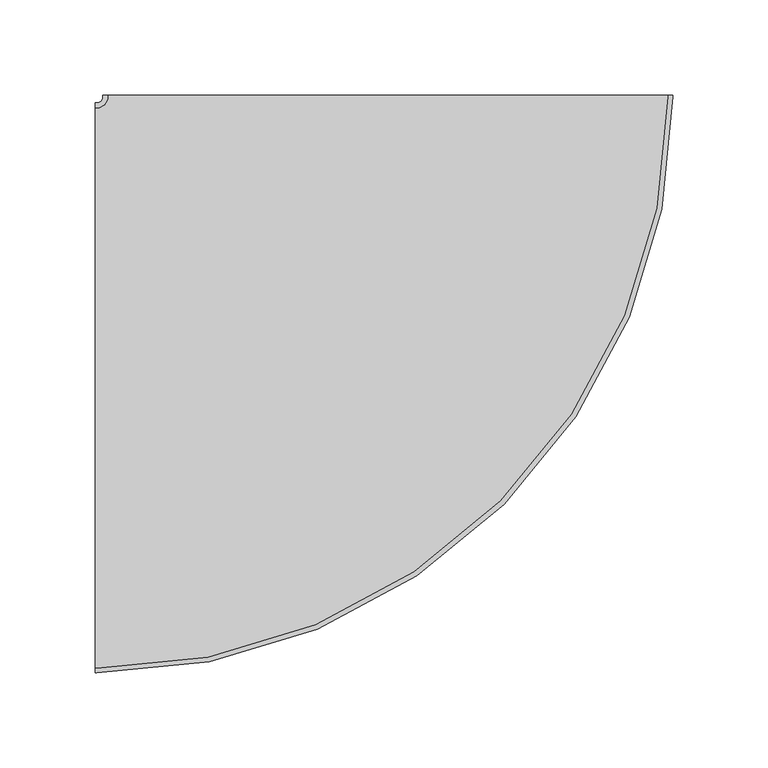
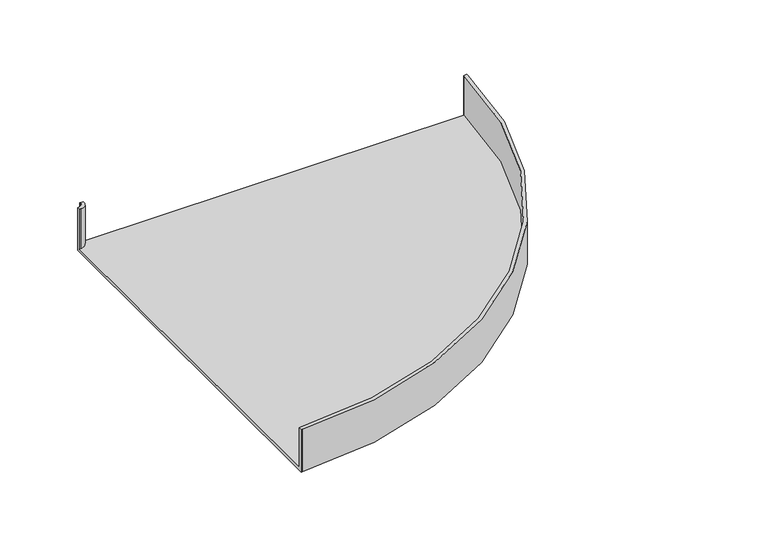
"""IFC4 building model written with IfcOpenShell, lengths in millimetres: cable carrier fitting geometry, BAKS_Mesh horizontal bend : KKSZ_H35."""

from ifc_helpers import new_model, si_unit, frame, origin, place, context, project, spatial, polyline, circle_curve, source, transform, mapped, element, save
from ifc_brep_helpers import plane_surface, cylinder_surface, revolved_surface, advanced_brep


def cable_carrier_fitting_b6827417(model_context):
    return source(origin(), model_context, "Body", "AdvancedBrep", [
        advanced_brep(
        [(-154.175, -150.0, -17.5), (-154.175, -150.0, 17.5), (-154.175, -147.46, 17.5), (-154.175, -147.46, -14.96), (-154.175, 147.46, -14.96), (-154.175, 147.46, 17.5), (-154.175, 150.0, 17.5), (-154.175, 150.0, -17.5), (150.0, 154.175, -17.5), (-150.0, 154.175, -17.5), (-150.0, 154.175, 17.5), (-147.46, 154.175, 17.5), (-147.46, 154.175, -14.96), (147.46, 154.175, -14.96), (147.46, 154.175, 17.5), (150.0, 154.175, 17.5), (-153.175, -150.0, -17.5), (-153.175, -150.0, 17.5), (150.0, 153.175, 17.5), (147.46, 153.175, 17.5), (-153.175, -147.46, 17.5), (-153.175, -147.46, -14.96), (147.46, 153.175, -14.96), (-147.46, 153.175, -14.96), (-153.175, 147.46, -14.96), (-153.175, 147.46, 17.5), (-147.46, 153.175, 17.5), (-150.0, 153.175, 17.5), (-153.175, 150.0, 17.5), (-153.175, 150.0, -17.5), (-150.0, 153.175, -17.5), (150.0, 153.175, -17.5)],
        [
            (0, 1),
            (1, 2),
            (2, 3),
            (3, 4),
            (4, 5),
            (5, 6),
            (6, 7),
            (7, 0),
            (8, 9),
            (9, 10),
            (10, 11),
            (11, 12),
            (12, 13),
            (13, 14),
            (14, 15),
            (15, 8),
            (0, 16),
            (16, 17),
            (17, 1),
            (17, 18, circle_curve(frame((-153.175, 153.175, 17.5), z_axis=(0.0, 0.0, 1.0), x_axis=(0.0, -1.0, 0.0)), 303.175)),
            (18, 15),
            (14, 19),
            (19, 20, circle_curve(frame((-153.175, 153.175, 17.5), z_axis=(0.0, 0.0, -1.0), x_axis=(0.0, -1.0, 0.0)), 300.635)),
            (20, 2),
            (20, 21),
            (21, 3),
            (21, 22, circle_curve(frame((-153.175, 153.175, -14.96), z_axis=(0.0, 0.0, 1.0), x_axis=(0.0, -1.0, 0.0)), 300.635)),
            (22, 13),
            (12, 23),
            (23, 24, circle_curve(frame((-153.175, 153.175, -14.96), z_axis=(0.0, 0.0, -1.0), x_axis=(0.0, -1.0, 0.0)), 5.715)),
            (24, 4),
            (24, 25),
            (25, 5),
            (25, 26, circle_curve(frame((-153.175, 153.175, 17.5), z_axis=(0.0, 0.0, 1.0), x_axis=(0.0, -1.0, 0.0)), 5.715)),
            (26, 11),
            (10, 27),
            (27, 28, circle_curve(frame((-153.175, 153.175, 17.5), z_axis=(0.0, 0.0, -1.0), x_axis=(0.0, -1.0, 0.0)), 3.175)),
            (28, 6),
            (28, 29),
            (29, 7),
            (29, 30, circle_curve(frame((-153.175, 153.175, -17.5), z_axis=(0.0, 0.0, 1.0), x_axis=(0.0, -1.0, 0.0)), 3.175)),
            (30, 9),
            (8, 31),
            (31, 16, circle_curve(frame((-153.175, 153.175, -17.5), z_axis=(0.0, 0.0, -1.0), x_axis=(0.0, -1.0, 0.0)), 303.175)),
            (31, 18),
            (19, 22),
            (23, 26),
            (27, 30),
        ],
        [
            plane_surface(frame((-154.175, 0.0, 0.0), z_axis=(-1.0, -4.906741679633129e-12, 0.0), x_axis=(0.0, 0.0, 1.0))),
            plane_surface(frame((0.0, 154.175, 0.0), z_axis=(0.0, 1.0, 0.0), x_axis=(0.0, 0.0, 1.0))),
            plane_surface(frame((-154.175, -150.0, -17.5), z_axis=(4.906741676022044e-12, -1.0, 0.0), x_axis=(1.0, 4.906741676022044e-12, 0.0))),
            plane_surface(frame((-154.175, -150.0, 17.5), z_axis=(0.0, 0.0, 1.0), x_axis=(1.0, 4.906741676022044e-12, 0.0))),
            plane_surface(frame((-154.175, -147.46, 17.5), z_axis=(-4.923661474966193e-12, 1.0, 0.0), x_axis=(1.0, 4.923661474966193e-12, 0.0))),
            plane_surface(frame((-154.175, -147.46, -14.96), z_axis=(0.0, 0.0, 1.0), x_axis=(1.0, 4.906741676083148e-12, 0.0))),
            plane_surface(frame((-154.175, 147.46, -14.96), z_axis=(4.906741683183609e-12, -1.0, 0.0), x_axis=(1.0, 4.906741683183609e-12, 0.0))),
            plane_surface(frame((-154.175, 147.46, 17.5), z_axis=(0.0, 0.0, 1.0), x_axis=(1.0, 4.906741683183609e-12, 0.0))),
            plane_surface(frame((-154.175, 150.0, 17.5), z_axis=(-4.906741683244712e-12, 1.0, 0.0), x_axis=(1.0, 4.906741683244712e-12, 0.0))),
            plane_surface(frame((-154.175, 150.0, -17.5), z_axis=(0.0, 0.0, -1.0), x_axis=(1.0, 4.906741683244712e-12, 0.0))),
            cylinder_surface(frame((-153.175, 153.175, 0.0), z_axis=(0.0, 0.0, 1.0), x_axis=(0.0, -1.0, 0.0)), 303.175),
            revolved_surface(polyline([(-153.175, -147.45999999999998, 17.5), (-153.175, -147.45999999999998, -14.96)]), (-153.175, 153.175, 0.0), (0.0, 0.0, 1.0)),
            cylinder_surface(frame((-153.175, 153.175, 0.0), z_axis=(0.0, 0.0, 1.0), x_axis=(0.0, -1.0, 0.0)), 5.715),
            revolved_surface(polyline([(-153.175, 150.0, 17.5), (-153.175, 150.0, -17.5)]), (-153.175, 153.175, 0.0), (0.0, 0.0, 1.0)),
            plane_surface(frame((150.0, 153.175, -17.5), z_axis=(1.0, 0.0, 0.0), x_axis=(0.0, 1.0, 0.0))),
            plane_surface(frame((147.46, 153.175, 17.5), z_axis=(-1.0, 0.0, 0.0), x_axis=(0.0, 1.0, 0.0))),
            plane_surface(frame((-147.46, 153.175, -14.96), z_axis=(1.0, 0.0, 0.0), x_axis=(0.0, 1.0, 0.0))),
            plane_surface(frame((-150.0, 153.175, 17.5), z_axis=(-1.0, 0.0, 0.0), x_axis=(0.0, 1.0, 0.0))),
        ],
        [
            (0, [[1, 2, 3, 4, 5, 6, 7, 8]]),
            (1, [[9, 10, 11, 12, 13, 14, 15, 16]]),
            (2, [[-1, 17, 18, 19]]),
            (3, [[-2, -19, 20, 21, -15, 22, 23, 24]]),
            (4, [[-3, -24, 25, 26]]),
            (5, [[-4, -26, 27, 28, -13, 29, 30, 31]]),
            (6, [[-5, -31, 32, 33]]),
            (7, [[-6, -33, 34, 35, -11, 36, 37, 38]]),
            (8, [[-7, -38, 39, 40]]),
            (9, [[-8, -40, 41, 42, -9, 43, 44, -17]]),
            (10, [[-20, -18, -44, 45]]),
            (11, [[-27, -25, -23, 46]]),
            (12, [[-34, -32, -30, 47]]),
            (13, [[-41, -39, -37, 48]]),
            (14, [[-45, -43, -16, -21]]),
            (15, [[-46, -22, -14, -28]]),
            (16, [[-47, -29, -12, -35]]),
            (17, [[-48, -36, -10, -42]]),
        ],
    ),
    ])


if __name__ == "__main__":
    model = new_model("IFC4")
    model_context = context("Model", 3, world=origin())
    ifc_project = project(units=[si_unit("LENGTHUNIT", "METRE", prefix="MILLI")], contexts=[model_context])
    site = spatial("IfcSite", under=ifc_project)
    building = spatial("IfcBuilding", under=site)
    placement = place(None, origin())
    cable_carrier_fitting_shape = cable_carrier_fitting_b6827417(model_context)
    element("IfcCableCarrierFitting", 1, ObjectType="BAKS_Mesh horizontal bend : KKSZ_H35", at=placement, inside=building, context=model_context, shape_type="MappedRepresentation", body=[
        mapped(cable_carrier_fitting_shape, transform((0.0, 0.0, 0.0), x_axis=(1.0, 0.0, 0.0), y_axis=(0.0, 1.0, 0.0), z_axis=(0.0, 0.0, 1.0))),
    ])
    save(model, "model.ifc")
